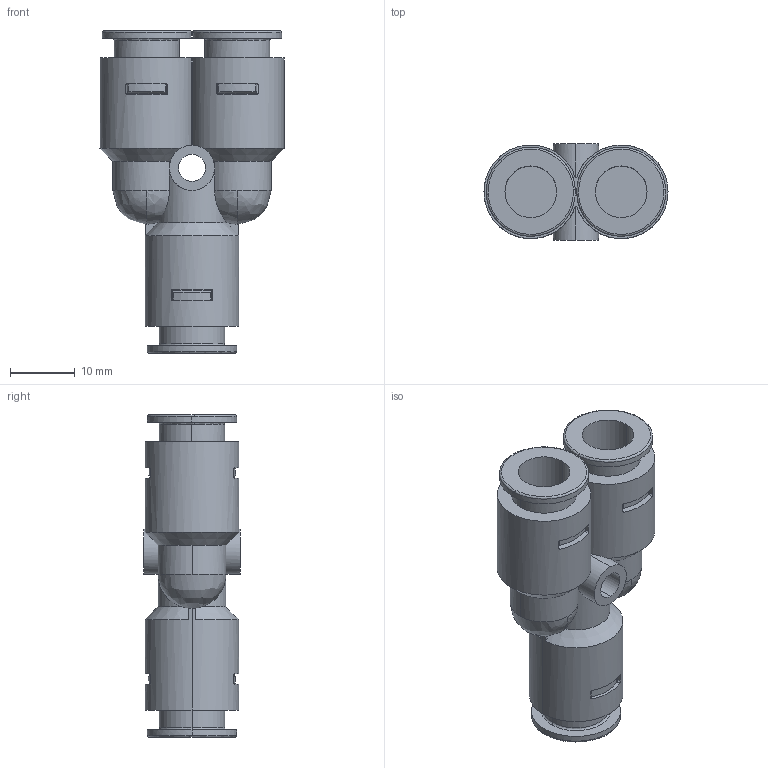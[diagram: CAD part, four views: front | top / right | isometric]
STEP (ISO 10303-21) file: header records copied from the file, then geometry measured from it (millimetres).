
FILE_DESCRIPTION (( 'STEP AP214' ), '1' );
FILE_NAME ('KQ2U08-00A.STEP', '2023-03-06T08:54:35', ( 'Windows User' ), ( 'P R C' ), 'SwSTEP 2.0', 'SolidWorks 2019', '' );
FILE_SCHEMA (( 'AUTOMOTIVE_DESIGN' ));
Length unit declared in the file: millimetre
Products named in the file (1): KQ2U08-00A
Bounding box: 28.5 x 15 x 50 mm (x, y, z)
Volume: 7508.3 mm3; surface area: 6141.4 mm2
Topology: 1 solids, 1 shells, 174 faces, 482 edges, 317 vertices
Faces by surface type: cylinder 86, plane 55, bspline 18, cone 15
Entity records: 6713 total; most frequent: CARTESIAN_POINT 2422, ORIENTED_EDGE 948, DIRECTION 835, EDGE_CURVE 474, AXIS2_PLACEMENT_3D 330, VERTEX_POINT 317, EDGE_LOOP 191, VECTOR 175
